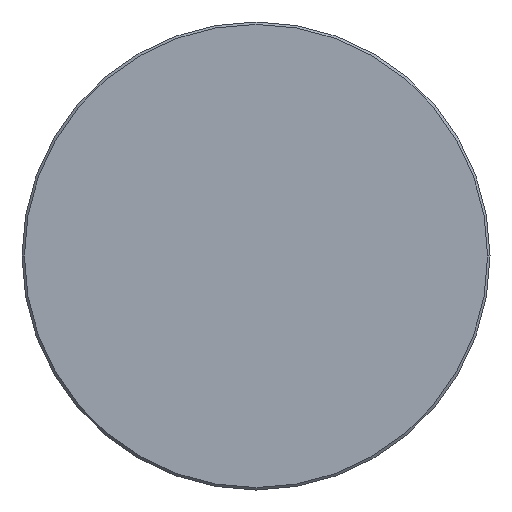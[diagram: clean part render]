
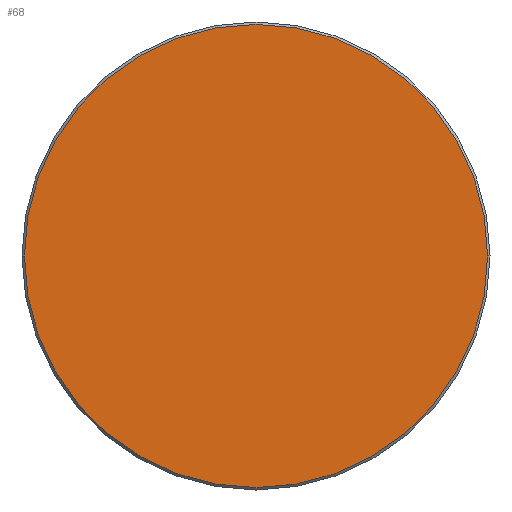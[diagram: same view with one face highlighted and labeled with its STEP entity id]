
A CAD part, left-side view. The second image highlights one B-rep face of the part: STEP entity #68.
In plain terms, the highlighted planar face has unit normal (-1, 0, 0).
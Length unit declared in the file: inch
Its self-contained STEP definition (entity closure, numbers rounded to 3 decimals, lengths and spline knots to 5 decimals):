
#1 = PLANE ( 'NONE',  #327 ) ;
#9 = FACE_OUTER_BOUND ( 'NONE', #148, .T. ) ;
#44 = DIRECTION ( 'NONE',  ( -1., 0., 0. ) ) ;
#68 = ADVANCED_FACE ( 'NONE', ( #9 ), #1, .T. ) ;
#76 = VERTEX_POINT ( 'NONE', #128 ) ;
#84 = ORIENTED_EDGE ( 'NONE', *, *, #126, .T. ) ;
#107 = DIRECTION ( 'NONE',  ( 0., -1., 0. ) ) ;
#113 = CARTESIAN_POINT ( 'NONE',  ( 0., 0., 0. ) ) ;
#125 = DIRECTION ( 'NONE',  ( -1., 0., 0. ) ) ;
#126 = EDGE_CURVE ( 'NONE', #76, #181, #269, .T. ) ;
#128 = CARTESIAN_POINT ( 'NONE',  ( 0., -0.38662, 0. ) ) ;
#129 = ORIENTED_EDGE ( 'NONE', *, *, #270, .T. ) ;
#137 = AXIS2_PLACEMENT_3D ( 'NONE', #217, #241, #107 ) ;
#148 = EDGE_LOOP ( 'NONE', ( #129, #84 ) ) ;
#149 = CARTESIAN_POINT ( 'NONE',  ( 0., 0., 0. ) ) ;
#163 = CARTESIAN_POINT ( 'NONE',  ( 0., 0.38662, 0. ) ) ;
#181 = VERTEX_POINT ( 'NONE', #163 ) ;
#207 = AXIS2_PLACEMENT_3D ( 'NONE', #113, #44, #337 ) ;
#217 = CARTESIAN_POINT ( 'NONE',  ( 0., 0., 0. ) ) ;
#241 = DIRECTION ( 'NONE',  ( -1., 0., 0. ) ) ;
#269 = CIRCLE ( 'NONE', #137, 0.38662 ) ;
#270 = EDGE_CURVE ( 'NONE', #181, #76, #359, .T. ) ;
#327 = AXIS2_PLACEMENT_3D ( 'NONE', #149, #125, #345 ) ;
#337 = DIRECTION ( 'NONE',  ( 0., -1., 0. ) ) ;
#345 = DIRECTION ( 'NONE',  ( 0., -1., 0. ) ) ;
#359 = CIRCLE ( 'NONE', #207, 0.38662 ) ;
